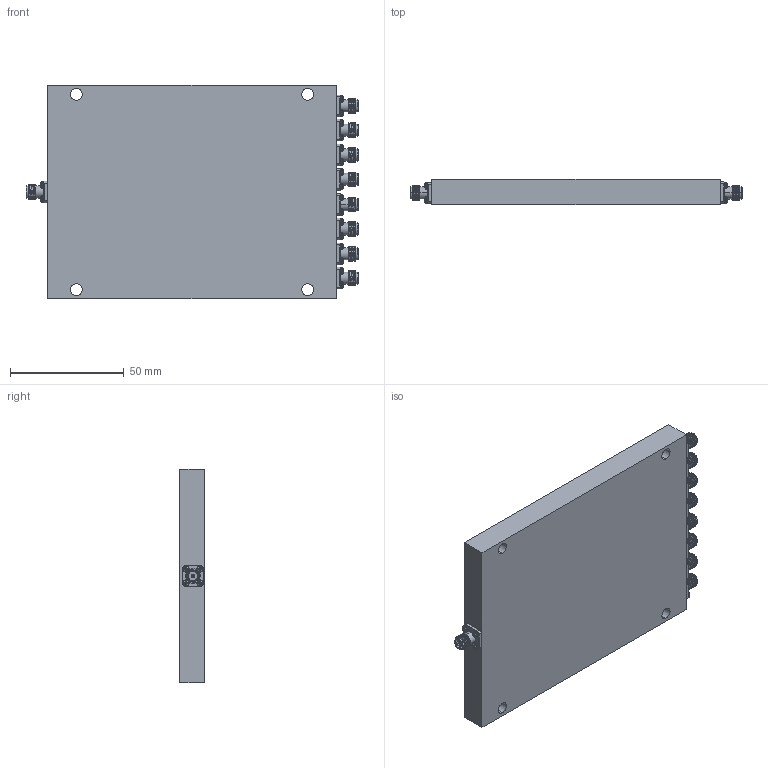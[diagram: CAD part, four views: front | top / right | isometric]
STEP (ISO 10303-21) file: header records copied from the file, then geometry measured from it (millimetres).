
FILE_DESCRIPTION (( 'STEP AP214' ), '1' );
FILE_NAME ('APD-8-0R523G-292FF.STEP', '2025-10-31T17:35:46', ( '' ), ( '' ), 'SwSTEP 2.0', 'SolidWorks 2024', '' );
FILE_SCHEMA (( 'AUTOMOTIVE_DESIGN' ));
Length unit declared in the file: inch
Products named in the file (1): APD-8-0R523G-292FF
Bounding box: 145.9 x 11.02 x 93.98 mm (x, y, z)
Volume: 133429 mm3; surface area: 54855.3 mm2
Topology: 83 solids, 83 shells, 3446 faces, 9911 edges, 6903 vertices
Faces by surface type: cylinder 1308, plane 1202, torus 558, cone 288, sphere 72, bspline 18
Entity records: 153270 total; most frequent: CARTESIAN_POINT 40307, ORIENTED_EDGE 19750, DIRECTION 18178, EDGE_CURVE 9875, AXIS2_PLACEMENT_3D 7150, VERTEX_POINT 6903, VECTOR 3878, LINE 3878
